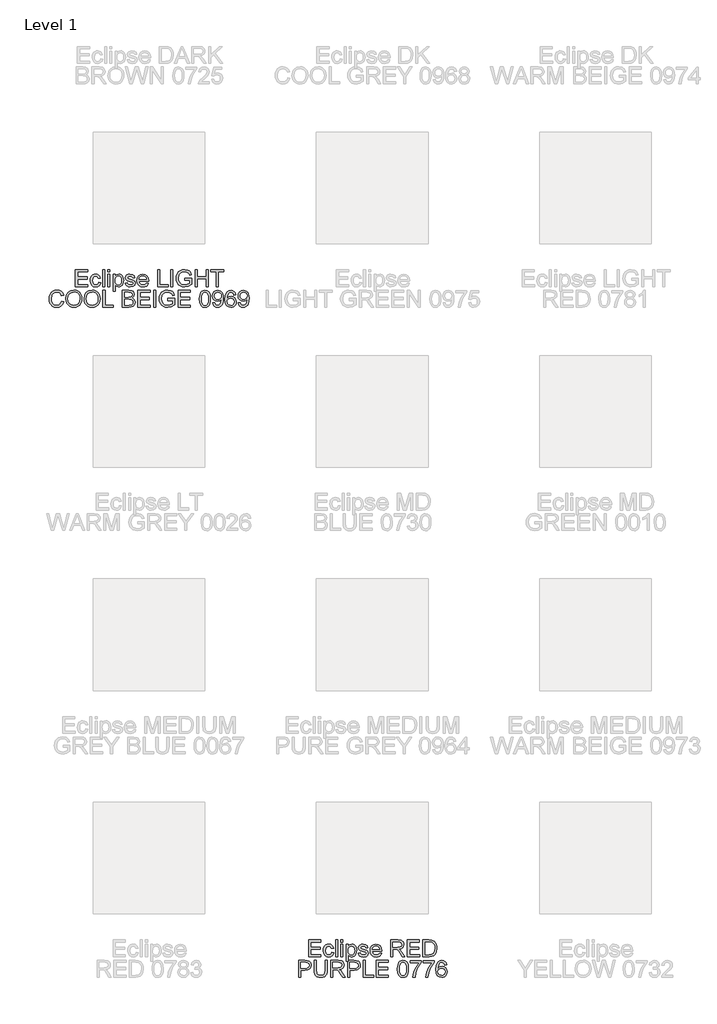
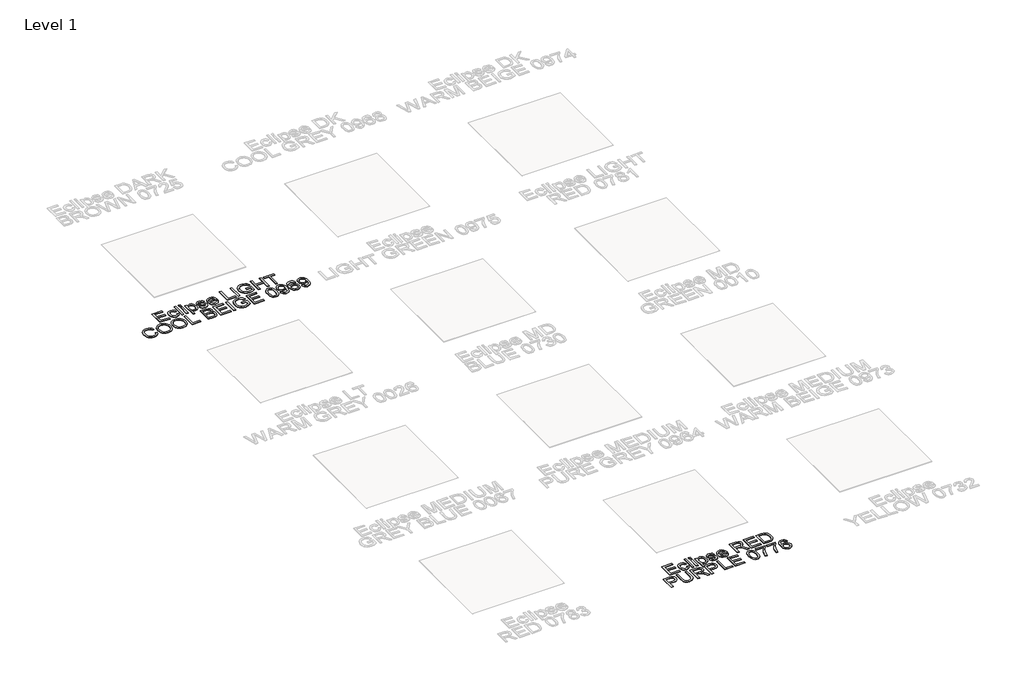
# One storey, part 3 of 13: 2 proxies.
"""IFC4 building model written with IfcOpenShell, lengths in millimetres."""

from ifc_helpers import new_model, si_unit, origin, origin_with_axes, place, context, project, spatial, polyline, outline, extrude, element, save

model = new_model("IFC4")

# Units and contexts
model_context = context("Model", 3, world=origin())
ifc_project = project(units=[si_unit("LENGTHUNIT", "METRE", prefix="MILLI")], contexts=[model_context])

# Site, building, storey
site = spatial("IfcSite", under=ifc_project)
building = spatial("IfcBuilding", under=site)
storey = spatial("IfcBuildingStorey", under=building, Name="Level 1", Elevation=0.0)

# Proxies
placement = place(None, origin())
element("IfcBuildingElementProxy", 1, Name="150mm Arial", ObjectType="150mm Arial", at=placement, inside=storey, context=model_context, shape_type="SweptSolid", body=[
    extrude(outline(polyline([(-2592.0081563, -1362.9455422), (-2592.0081563, -1212.261077), (-2483.7036969, -1212.261077), (-2483.7036969, -1231.0966352), (-2573.1725981, -1231.0966352), (-2573.1725981, -1275.8310858), (-2488.4125864, -1275.8310858), (-2488.4125864, -1294.6666439), (-2573.1725981, -1294.6666439), (-2573.1725981, -1344.1099841), (-2481.3492521, -1344.1099841), (-2481.3492521, -1362.9455422), (-2592.0081563, -1362.9455422)])), origin_with_axes(), (0.0, 0.0, 1.0), 5.0),
    extrude(outline(polyline([(-2384.8170166, -1322.9199812), (-2365.9814584, -1325.2744259), (-2371.2329739, -1342.0268523), (-2381.1014084, -1354.6865914), (-2394.65786, -1362.6466381), (-2410.9734265, -1365.299987), (-2431.0091996, -1361.5981744), (-2446.6763741, -1350.4927367), (-2456.7885304, -1332.4711175), (-2460.1592492, -1308.0207603), (-2458.7199109, -1291.2591369), (-2454.401896, -1276.7323967), (-2447.1362266, -1265.0015595), (-2436.8539248, -1256.6276456), (-2424.5528706, -1251.6060564), (-2411.2309439, -1249.9321933), (-2395.315449, -1252.2314558), (-2382.5913305, -1259.1292432), (-2373.4632585, -1270.2576735), (-2368.3359032, -1285.2488648), (-2387.1714614, -1287.6033096), (-2395.9086588, -1273.4950351), (-2411.0837911, -1268.7677515), (-2423.2560866, -1271.0946051), (-2432.9175875, -1278.0751659), (-2439.2221652, -1290.0865131), (-2441.3236911, -1307.5057256), (-2439.2681504, -1325.1594628), (-2433.1015285, -1337.2121967), (-2423.6147715, -1344.1513708), (-2411.5988258, -1346.4644288), (-2401.8453545, -1345.020492), (-2393.8485196, -1340.6886815), (-2388.0313855, -1333.3586328), (-2384.8170166, -1322.9199812)])), origin_with_axes(), (0.0, 0.0, 1.0), 5.0),
    extrude(outline(polyline([(-2349.5003451, -1362.9455422), (-2349.5003451, -1212.261077), (-2330.6647869, -1212.261077), (-2330.6647869, -1362.9455422), (-2349.5003451, -1362.9455422)])), origin_with_axes(), (0.0, 0.0, 1.0), 5.0),
    extrude(outline(polyline([(-2302.4114497, -1231.0966352), (-2302.4114497, -1212.261077), (-2283.5758915, -1212.261077), (-2283.5758915, -1231.0966352), (-2302.4114497, -1231.0966352)])), origin_with_axes(), (0.0, 0.0, 1.0), 5.0),
    extrude(outline(polyline([(-2302.4114497, -1362.9455422), (-2302.4114497, -1252.2866381), (-2283.5758915, -1252.2866381), (-2283.5758915, -1362.9455422), (-2302.4114497, -1362.9455422)])), origin_with_axes(), (0.0, 0.0, 1.0), 5.0),
    extrude(outline(polyline([(-2255.3225543, -1405.3255481), (-2255.3225543, -1252.2866381), (-2236.4869961, -1252.2866381), (-2236.4869961, -1270.7543142), (-2223.4639735, -1255.1377235), (-2205.8792141, -1249.9321933), (-2193.1413001, -1251.7532092), (-2182.0036727, -1257.2162568), (-2172.9353815, -1265.9902424), (-2166.4054761, -1277.7440721), (-2161.1447635, -1306.7699616), (-2162.6300871, -1322.8785944), (-2167.0860578, -1337.2857731), (-2174.3701213, -1349.260332), (-2184.3397233, -1358.0711058), (-2195.9509988, -1363.4927667), (-2208.1600825, -1365.299987), (-2224.5492254, -1360.4623388), (-2236.4869961, -1348.2302624), (-2236.4869961, -1405.3255481), (-2255.3225543, -1405.3255481)]), holes=[polyline([(-2236.4869961, -1308.4990069), (-2234.4498496, -1325.3847905), (-2228.33841, -1337.1938026), (-2219.3207025, -1344.1467723), (-2208.5647527, -1346.4644288), (-2197.6340589, -1344.0639988), (-2188.3864253, -1336.8627088), (-2182.0818476, -1324.6214354), (-2179.9803217, -1307.1010554), (-2182.0312638, -1290.3072423), (-2188.1840902, -1278.3326833), (-2197.188002, -1271.1589844), (-2207.7922005, -1268.7677515), (-2218.4377858, -1271.3107358), (-2227.786587, -1278.9396886), (-2234.3118938, -1291.4154868), (-2236.4869961, -1308.4990069)])]), origin_with_axes(), (0.0, 0.0, 1.0), 5.0),
    extrude(outline(polyline([(-2147.0180949, -1329.9833155), (-2128.1825368, -1327.6288707), (-2125.2118897, -1335.6854864), (-2119.4637335, -1341.6083865), (-2099.4877411, -1346.4644288), (-2080.284301, -1342.0130567), (-2074.0303071, -1331.565208), (-2075.6030026, -1326.764348), (-2080.3210892, -1323.1039222), (-2099.7084703, -1317.732845), (-2128.0721722, -1308.517401), (-2140.4514013, -1297.7568527), (-2144.6636501, -1282.5633263), (-2141.2791358, -1268.5286282), (-2132.0452977, -1257.804868), (-2120.0707388, -1252.2314558), (-2103.8655369, -1249.9321933), (-2080.9464886, -1253.6294074), (-2066.3783616, -1263.6357976), (-2059.9036385, -1280.5399753), (-2078.7391966, -1282.8944201), (-2085.820925, -1272.5017537), (-2102.3940089, -1268.7677515), (-2120.4202267, -1272.3362068), (-2125.828092, -1280.6503399), (-2123.5840118, -1286.1317816), (-2116.5574657, -1290.2888482), (-2100.3338697, -1294.2987619), (-2072.6875378, -1303.164718), (-2059.8484562, -1313.2078965), (-2055.1947489, -1329.5786453), (-2060.6577965, -1347.604863), (-2076.42154, -1360.683068), (-2099.7452585, -1365.299987), (-2118.7371665, -1363.0743009), (-2132.5971207, -1356.3972427), (-2141.8493529, -1345.3423888), (-2147.0180949, -1329.9833155)])), origin_with_axes(), (0.0, 0.0, 1.0), 5.0),
    extrude(outline(polyline([(-1956.5287978, -1329.9833155), (-1938.0611217, -1332.3377602), (-1944.7151872, -1346.2528967), (-1955.3331813, -1356.6547601), (-1969.6759806, -1363.1386803), (-1987.5044618, -1365.299987), (-2009.6049727, -1361.5705833), (-2026.6103179, -1350.3823721), (-2037.4536397, -1332.4619204), (-2041.0680803, -1308.5357951), (-2037.4168515, -1283.804928), (-2026.4631651, -1265.3096607), (-2009.6877461, -1253.7765602), (-1988.5713196, -1249.9321933), (-1968.1124821, -1253.7673631), (-1951.764726, -1265.2728725), (-1941.0455643, -1283.7313516), (-1937.4725105, -1308.4254305), (-1937.5828751, -1313.5022021), (-2022.2325222, -1313.5022021), (-2018.972168, -1327.6012795), (-2011.3983974, -1337.9663548), (-2000.4677036, -1344.3399103), (-1987.1365798, -1346.4644288), (-1968.6689037, -1342.5280915), (-1956.5287978, -1329.9833155)]), holes=[polyline([(-2022.2325222, -1294.6666439), (-1956.3080686, -1294.6666439), (-1958.8556514, -1284.715436), (-1963.8496495, -1277.5969193), (-1974.8309271, -1270.9750434), (-1988.644896, -1268.7677515), (-2001.3414234, -1270.5289865), (-2011.8398558, -1275.8126917), (-2019.1377149, -1284.0486498), (-2022.2325222, -1294.6666439)])]), origin_with_axes(), (0.0, 0.0, 1.0), 5.0),
    extrude(outline(polyline([(-1857.4213883, -1362.9455422), (-1857.4213883, -1212.261077), (-1838.5858302, -1212.261077), (-1838.5858302, -1344.1099841), (-1763.2435975, -1344.1099841), (-1763.2435975, -1362.9455422), (-1857.4213883, -1362.9455422)])), origin_with_axes(), (0.0, 0.0, 1.0), 5.0),
    extrude(outline(polyline([(-1739.6991499, -1362.9455422), (-1739.6991499, -1212.261077), (-1720.8635917, -1212.261077), (-1720.8635917, -1362.9455422), (-1739.6991499, -1362.9455422)])), origin_with_axes(), (0.0, 0.0, 1.0), 5.0),
    extrude(outline(polyline([(-1612.5591323, -1304.084423), (-1612.5591323, -1285.2488648), (-1551.3435683, -1285.2488648), (-1551.3435683, -1341.5715983), (-1581.5650742, -1359.3402987), (-1613.5156255, -1365.299987), (-1634.6458476, -1362.9317467), (-1653.7435217, -1355.8270256), (-1669.6084327, -1344.2341443), (-1681.0403657, -1328.4014229), (-1687.9519487, -1309.4095149), (-1690.2558097, -1288.3390736), (-1687.9611458, -1267.116881), (-1681.0771539, -1247.3754134), (-1669.8889427, -1230.8161251), (-1654.6816208, -1219.1404703), (-1636.1587623, -1212.2150918), (-1615.0239417, -1209.9066322), (-1585.5565939, -1215.2593153), (-1573.8073627, -1221.660462), (-1564.9000198, -1230.1585361), (-1553.5140721, -1255.0825412), (-1570.8781023, -1259.9753718), (-1579.4681469, -1242.5561593), (-1594.1466385, -1232.5129808), (-1615.3182473, -1228.7421904), (-1639.4329121, -1232.8072864), (-1655.8404491, -1243.4758643), (-1665.5341396, -1257.988809), (-1671.4202516, -1287.5665214), (-1669.6498195, -1305.5789436), (-1664.3385231, -1320.3999895), (-1655.647311, -1331.923893), (-1643.7371314, -1340.044888), (-1629.7990023, -1344.8595436), (-1615.0239417, -1346.4644288), (-1589.2538079, -1341.6267806), (-1570.1791265, -1331.3076906), (-1570.1791265, -1304.084423), (-1612.5591323, -1304.084423)])), origin_with_axes(), (0.0, 0.0, 1.0), 5.0),
    extrude(outline(polyline([(-1520.7357863, -1362.9455422), (-1520.7357863, -1212.261077), (-1501.9002282, -1212.261077), (-1501.9002282, -1273.476641), (-1421.849106, -1273.476641), (-1421.849106, -1212.261077), (-1403.0135479, -1212.261077), (-1403.0135479, -1362.9455422), (-1421.849106, -1362.9455422), (-1421.849106, -1292.3121992), (-1501.9002282, -1292.3121992), (-1501.9002282, -1362.9455422), (-1520.7357863, -1362.9455422)])), origin_with_axes(), (0.0, 0.0, 1.0), 5.0),
    extrude(outline(polyline([(-1332.3802048, -1362.9455422), (-1332.3802048, -1231.0966352), (-1381.8235449, -1231.0966352), (-1381.8235449, -1212.261077), (-1264.1013065, -1212.261077), (-1264.1013065, -1231.0966352), (-1313.5446466, -1231.0966352), (-1313.5446466, -1362.9455422), (-1332.3802048, -1362.9455422)])), origin_with_axes(), (0.0, 0.0, 1.0), 5.0),
    extrude(outline(polyline([(-2715.6165067, -1492.3441505), (-2696.7809485, -1497.2001928), (-2705.4721606, -1519.1489524), (-2719.1113856, -1535.1840088), (-2737.0272388, -1544.9926625), (-2758.5483355, -1548.2622138), (-2780.3959275, -1545.7882073), (-2797.7461621, -1538.3661881), (-2811.0450962, -1526.2536734), (-2820.7387868, -1509.7081807), (-2826.6570884, -1490.2564202), (-2828.6298556, -1469.4251022), (-2826.399571, -1447.45335), (-2819.7087172, -1428.4798361), (-2808.9067821, -1413.1069673), (-2794.3432536, -1401.9371502), (-2777.071194, -1395.1359318), (-2758.1436653, -1392.868859), (-2737.4916898, -1395.8027179), (-2720.4173667, -1404.6042947), (-2707.4541249, -1418.7309633), (-2699.1353933, -1437.6400978), (-2717.9709514, -1442.1282582), (-2724.5008568, -1428.3924642), (-2733.4219952, -1418.9700866), (-2744.8447312, -1413.5208345), (-2758.8794293, -1411.7044172), (-2775.05704, -1413.7185711), (-2788.3467771, -1419.7610329), (-2798.4313423, -1429.197206), (-2804.9934374, -1441.3924942), (-2809.7942974, -1469.388314), (-2808.3733532, -1486.7891324), (-2804.1105206, -1501.835506), (-2796.8448512, -1513.9526192), (-2786.4153966, -1522.5656564), (-2773.9120073, -1527.7114058), (-2760.4245337, -1529.4266556), (-2744.7021769, -1527.0906049), (-2731.6009794, -1520.0824529), (-2721.7095522, -1508.475776), (-2715.6165067, -1492.3441505)])), origin_with_axes(), (0.0, 0.0, 1.0), 5.0),
    extrude(outline(polyline([(-2677.9453904, -1472.5520992), (-2672.9238011, -1439.2311874), (-2666.6468146, -1425.6126558), (-2657.8590334, -1414.0220737), (-2634.8572117, -1398.1571627), (-2606.0244603, -1392.868859), (-2586.2600001, -1395.3520625), (-2568.537285, -1402.8016729), (-2553.8220052, -1414.6934584), (-2543.0798509, -1430.5031871), (-2536.5131573, -1449.467504), (-2534.3242594, -1470.8230538), (-2536.6281204, -1492.4637121), (-2543.5397034, -1511.6947434), (-2554.6773308, -1527.5320633), (-2569.6593251, -1538.9915875), (-2587.2302889, -1545.9445572), (-2606.1348249, -1548.2622138), (-2626.2027877, -1545.7008354), (-2644.0266704, -1538.0167002), (-2658.705162, -1525.9041855), (-2669.3369517, -1510.0576686), (-2675.7932807, -1491.8245172), (-2677.9453904, -1472.5520992)]), holes=[polyline([(-2659.1098322, -1472.7360402), (-2655.3436403, -1496.308079), (-2644.0450645, -1514.2699174), (-2627.0627119, -1525.6374711), (-2606.2451895, -1529.4266556), (-2585.1241644, -1525.6006829), (-2568.1142207, -1514.1227646), (-2556.8984184, -1495.6091032), (-2553.1598176, -1470.675901), (-2554.7601043, -1454.0016496), (-2559.5609643, -1439.5898724), (-2567.4382375, -1427.803853), (-2578.2677638, -1419.0068748), (-2591.3321731, -1413.5300316), (-2605.9140957, -1411.7044172), (-2626.1751966, -1415.2222887), (-2643.401271, -1425.7759035), (-2655.1826919, -1444.5516808), (-2659.1098322, -1472.7360402)])]), origin_with_axes(), (0.0, 0.0, 1.0), 5.0),
    extrude(outline(polyline([(-2515.4887013, -1472.5520992), (-2510.4671121, -1439.2311874), (-2504.1901255, -1425.6126558), (-2495.4023443, -1414.0220737), (-2472.4005226, -1398.1571627), (-2443.5677712, -1392.868859), (-2423.803311, -1395.3520625), (-2406.0805959, -1402.8016729), (-2391.3653161, -1414.6934584), (-2380.6231619, -1430.5031871), (-2374.0564682, -1449.467504), (-2371.8675704, -1470.8230538), (-2374.1714314, -1492.4637121), (-2381.0830143, -1511.6947434), (-2392.2206418, -1527.5320633), (-2407.202636, -1538.9915875), (-2424.7735998, -1545.9445572), (-2443.6781358, -1548.2622138), (-2463.7460987, -1545.7008354), (-2481.5699813, -1538.0167002), (-2496.2484729, -1525.9041855), (-2506.8802626, -1510.0576686), (-2513.3365916, -1491.8245172), (-2515.4887013, -1472.5520992)]), holes=[polyline([(-2496.6531431, -1472.7360402), (-2492.8869512, -1496.308079), (-2481.5883754, -1514.2699174), (-2464.6060228, -1525.6374711), (-2443.7885004, -1529.4266556), (-2422.6674754, -1525.6006829), (-2405.6575316, -1514.1227646), (-2394.4417293, -1495.6091032), (-2390.7031285, -1470.675901), (-2392.3034152, -1454.0016496), (-2397.1042752, -1439.5898724), (-2404.9815485, -1427.803853), (-2415.8110747, -1419.0068748), (-2428.875484, -1413.5300316), (-2443.4574066, -1411.7044172), (-2463.7185075, -1415.2222887), (-2480.9445819, -1425.7759035), (-2492.7260028, -1444.5516808), (-2496.6531431, -1472.7360402)])]), origin_with_axes(), (0.0, 0.0, 1.0), 5.0),
    extrude(outline(polyline([(-2345.9686779, -1545.907769), (-2345.9686779, -1395.2233038), (-2327.1331198, -1395.2233038), (-2327.1331198, -1527.0722108), (-2251.7908871, -1527.0722108), (-2251.7908871, -1545.907769), (-2345.9686779, -1545.907769)])), origin_with_axes(), (0.0, 0.0, 1.0), 5.0),
    extrude(outline(polyline([(-2171.739765, -1545.907769), (-2171.739765, -1395.2233038), (-2114.2398091, -1395.2233038), (-2086.0784424, -1399.6562818), (-2076.6146781, -1405.2802778), (-2069.4501762, -1413.2863097), (-2063.4353056, -1432.5633263), (-2068.493683, -1450.1664798), (-2083.7791799, -1463.5022021), (-2073.1060036, -1469.0756143), (-2065.2195333, -1477.5552943), (-2060.3496954, -1488.380222), (-2058.7264161, -1500.9893774), (-2063.1593941, -1521.2412812), (-2074.1406717, -1535.6622554), (-2090.5298146, -1543.3142009), (-2114.6812675, -1545.907769), (-2171.739765, -1545.907769)]), holes=[polyline([(-2152.9042068, -1456.4388678), (-2118.5072403, -1456.4388678), (-2098.4208834, -1454.820187), (-2086.3359598, -1447.8488232), (-2082.2708638, -1435.5799586), (-2086.0600483, -1423.2927), (-2096.9125672, -1416.0270306), (-2121.1192025, -1414.0588619), (-2152.9042068, -1414.0588619), (-2152.9042068, -1456.4388678)]), polyline([(-2152.9042068, -1527.0722108), (-2114.2765973, -1527.0722108), (-2100.2970815, -1526.3364469), (-2088.4696754, -1522.2345626), (-2080.6337889, -1513.8652472), (-2077.5619742, -1501.1733184), (-2081.1672178, -1486.531615), (-2092.8474711, -1477.7944176), (-2116.1160073, -1475.2744259), (-2152.9042068, -1475.2744259), (-2152.9042068, -1527.0722108)])]), origin_with_axes(), (0.0, 0.0, 1.0), 5.0),
    extrude(outline(polyline([(-2032.8275236, -1545.907769), (-2032.8275236, -1395.2233038), (-1924.5230642, -1395.2233038), (-1924.5230642, -1414.0588619), (-2013.9919655, -1414.0588619), (-2013.9919655, -1458.7933125), (-1929.2319538, -1458.7933125), (-1929.2319538, -1477.6288707), (-2013.9919655, -1477.6288707), (-2013.9919655, -1527.0722108), (-1922.1686195, -1527.0722108), (-1922.1686195, -1545.907769), (-2032.8275236, -1545.907769)])), origin_with_axes(), (0.0, 0.0, 1.0), 5.0),
    extrude(outline(polyline([(-1891.5608375, -1545.907769), (-1891.5608375, -1395.2233038), (-1872.7252793, -1395.2233038), (-1872.7252793, -1545.907769), (-1891.5608375, -1545.907769)])), origin_with_axes(), (0.0, 0.0, 1.0), 5.0),
    extrude(outline(polyline([(-1764.4208199, -1487.0466498), (-1764.4208199, -1468.2110916), (-1703.2052559, -1468.2110916), (-1703.2052559, -1524.5338251), (-1733.4267618, -1542.3025254), (-1765.3773131, -1548.2622138), (-1786.5075352, -1545.8939734), (-1805.6052093, -1538.7892524), (-1821.4701203, -1527.196371), (-1832.9020533, -1511.3636497), (-1839.8136363, -1492.3717416), (-1842.1174973, -1471.3013004), (-1839.8228334, -1450.0791078), (-1832.9388415, -1430.3376402), (-1821.7506304, -1413.7783519), (-1806.5433084, -1402.1026971), (-1788.0204499, -1395.1773185), (-1766.8856293, -1392.868859), (-1737.4182815, -1398.221542), (-1725.6690503, -1404.6226887), (-1716.7617075, -1413.1207628), (-1705.3757597, -1438.044768), (-1722.7397899, -1442.9375985), (-1731.3298345, -1425.5183861), (-1746.0083261, -1415.4752076), (-1767.1799349, -1411.7044172), (-1791.2945997, -1415.7695132), (-1807.7021367, -1426.4380911), (-1817.3958272, -1440.9510358), (-1823.2819392, -1470.5287482), (-1821.5115071, -1488.5411704), (-1816.2002108, -1503.3622163), (-1807.5089986, -1514.8861198), (-1795.598819, -1523.0071148), (-1781.6606899, -1527.8217704), (-1766.8856293, -1529.4266556), (-1741.1154955, -1524.5890074), (-1722.0408141, -1514.2699174), (-1722.0408141, -1487.0466498), (-1764.4208199, -1487.0466498)])), origin_with_axes(), (0.0, 0.0, 1.0), 5.0),
    extrude(outline(polyline([(-1672.5974739, -1545.907769), (-1672.5974739, -1395.2233038), (-1564.2930146, -1395.2233038), (-1564.2930146, -1414.0588619), (-1653.7619158, -1414.0588619), (-1653.7619158, -1458.7933125), (-1569.0019041, -1458.7933125), (-1569.0019041, -1477.6288707), (-1653.7619158, -1477.6288707), (-1653.7619158, -1527.0722108), (-1561.9385698, -1527.0722108), (-1561.9385698, -1545.907769), (-1672.5974739, -1545.907769)])), origin_with_axes(), (0.0, 0.0, 1.0), 5.0),
    extrude(outline(polyline([(-1481.8874476, -1471.779547), (-1480.5032916, -1447.6602837), (-1476.3508236, -1428.4246538), (-1469.4714303, -1413.7783519), (-1459.9064984, -1403.4270723), (-1447.5870501, -1397.2742459), (-1432.4441075, -1395.2233038), (-1410.4447642, -1400.0793461), (-1395.2512378, -1414.077256), (-1386.4220699, -1436.3709049), (-1383.0007673, -1471.779547), (-1384.3711278, -1495.7608545), (-1388.4822091, -1514.9504991), (-1395.3202156, -1529.6105966), (-1404.8713519, -1540.003263), (-1417.2183914, -1546.1974761), (-1432.4441075, -1548.2622138), (-1452.0154296, -1544.6753643), (-1466.8778622, -1533.914816), (-1478.1350513, -1508.4297907), (-1481.8874476, -1471.779547)]), holes=[polyline([(-1463.0518895, -1471.7427588), (-1460.8445975, -1501.371055), (-1454.2227216, -1518.5189545), (-1444.3634841, -1526.6997303), (-1432.4441075, -1529.4266556), (-1420.5247308, -1526.6905333), (-1410.6654934, -1518.4821663), (-1404.0436175, -1501.3250697), (-1401.8363255, -1471.7427588), (-1403.9700411, -1442.7812487), (-1410.3711878, -1425.499992), (-1420.2120311, -1416.9191444), (-1432.6648367, -1414.0588619), (-1444.4554546, -1416.5788536), (-1453.928416, -1424.1388286), (-1460.7710211, -1442.4961402), (-1463.0518895, -1471.7427588)])]), origin_with_axes(), (0.0, 0.0, 1.0), 5.0),
    extrude(outline(polyline([(-1364.1652092, -1508.2366527), (-1345.329651, -1505.8822079), (-1342.1106836, -1516.5737784), (-1336.8683651, -1523.8532434), (-1329.7314544, -1528.0333026), (-1320.8287101, -1529.4266556), (-1305.5800014, -1525.8398062), (-1295.2425174, -1516.2564802), (-1289.080494, -1499.8857314), (-1286.3581672, -1478.0335409), (-1286.4685318, -1474.3547209), (-1301.5332995, -1488.6285423), (-1322.1898735, -1494.1099841), (-1339.3653642, -1490.7622579), (-1353.6621782, -1480.7190795), (-1363.305285, -1465.2036563), (-1366.519654, -1445.4391961), (-1363.1489352, -1425.0217454), (-1353.0367788, -1409.0188786), (-1337.847851, -1398.6721975), (-1319.2468176, -1395.2233038), (-1305.1983239, -1397.1914724), (-1292.409826, -1403.0959785), (-1281.713657, -1412.6425162), (-1273.9421499, -1425.5367802), (-1269.2102677, -1443.3606628), (-1267.6329736, -1467.6960568), (-1269.2056692, -1493.4983803), (-1273.9237558, -1513.4421829), (-1281.7458467, -1528.4287757), (-1292.6305552, -1539.3594695), (-1306.1088318, -1546.0365277), (-1321.7116269, -1548.2622138), (-1337.8156613, -1545.636456), (-1350.66394, -1537.7591828), (-1359.6494577, -1525.1270348), (-1364.1652092, -1508.2366527)]), holes=[polyline([(-1286.4685318, -1444.9977377), (-1288.5010798, -1432.2322325), (-1294.5987239, -1422.4097832), (-1304.0624882, -1416.1465922), (-1316.193397, -1414.0588619), (-1328.7749612, -1416.3075406), (-1338.8549279, -1423.0535767), (-1345.4768038, -1433.3772652), (-1347.6840958, -1446.3589011), (-1345.5963655, -1457.9977677), (-1339.3331745, -1467.2362043), (-1329.5015282, -1473.2648705), (-1316.7084318, -1475.2744259), (-1304.674092, -1473.2648705), (-1294.985, -1467.2362043), (-1288.5976488, -1457.6574769), (-1286.4685318, -1444.9977377)])]), origin_with_axes(), (0.0, 0.0, 1.0), 5.0),
    extrude(outline(polyline([(-1154.6196247, -1435.2488648), (-1173.4551829, -1437.6033096), (-1180.5920936, -1421.8947484), (-1189.1361529, -1416.0178336), (-1199.4644399, -1414.0588619), (-1216.4605881, -1418.6205987), (-1229.3180638, -1435.7455055), (-1233.2222115, -1449.7756051), (-1234.6707469, -1469.3147376), (-1218.0608748, -1454.2867581), (-1197.4778772, -1449.3755335), (-1180.0770588, -1452.7324567), (-1165.4721436, -1462.8032263), (-1155.5669209, -1478.1898907), (-1152.26518, -1497.4944984), (-1153.8194814, -1510.9819721), (-1158.4823857, -1523.4853614), (-1165.8676167, -1534.0895599), (-1175.5888985, -1541.8794612), (-1187.2047725, -1546.6665256), (-1200.2737803, -1548.2622138), (-1221.6431257, -1544.0315708), (-1238.6622665, -1531.339642), (-1249.7952954, -1508.9356285), (-1253.506305, -1475.5687315), (-1249.3860267, -1438.0539651), (-1237.0251916, -1412.4033929), (-1220.1486051, -1399.5183261), (-1198.2872176, -1395.2233038), (-1181.7601189, -1397.8812512), (-1168.5255641, -1405.8550934), (-1159.2549379, -1418.5194311), (-1154.6196247, -1435.2488648)]), holes=[polyline([(-1234.6707469, -1497.2001928), (-1230.3113452, -1513.5157593), (-1218.7230624, -1525.3615596), (-1201.7453083, -1529.4266556), (-1189.3154954, -1527.3205312), (-1179.5436299, -1521.0021579), (-1173.2114611, -1511.0693441), (-1171.1007381, -1498.1198978), (-1173.1838699, -1485.6900849), (-1179.4332653, -1476.212525), (-1189.3706777, -1470.21145), (-1202.5178605, -1468.2110916), (-1214.9292793, -1470.21145), (-1225.3081501, -1476.212525), (-1232.3300977, -1485.4601587), (-1234.6707469, -1497.2001928)])]), origin_with_axes(), (0.0, 0.0, 1.0), 5.0),
    extrude(outline(polyline([(-1133.4296218, -1508.2366527), (-1114.5940637, -1505.8822079), (-1111.3750962, -1516.5737784), (-1106.1327778, -1523.8532434), (-1098.9958671, -1528.0333026), (-1090.0931228, -1529.4266556), (-1074.8444141, -1525.8398062), (-1064.50693, -1516.2564802), (-1058.3449066, -1499.8857314), (-1055.6225798, -1478.0335409), (-1055.7329444, -1474.3547209), (-1070.7977121, -1488.6285423), (-1091.4542862, -1494.1099841), (-1108.6297768, -1490.7622579), (-1122.9265908, -1480.7190795), (-1132.5696976, -1465.2036563), (-1135.7840666, -1445.4391961), (-1132.4133478, -1425.0217454), (-1122.3011915, -1409.0188786), (-1107.1122636, -1398.6721975), (-1088.5112302, -1395.2233038), (-1074.4627365, -1397.1914724), (-1061.6742386, -1403.0959785), (-1050.9780696, -1412.6425162), (-1043.2065625, -1425.5367802), (-1038.4746803, -1443.3606628), (-1036.8973863, -1467.6960568), (-1038.4700818, -1493.4983803), (-1043.1881684, -1513.4421829), (-1051.0102593, -1528.4287757), (-1061.8949678, -1539.3594695), (-1075.3732444, -1546.0365277), (-1090.9760396, -1548.2622138), (-1107.0800739, -1545.636456), (-1119.9283526, -1537.7591828), (-1128.9138703, -1525.1270348), (-1133.4296218, -1508.2366527)]), holes=[polyline([(-1055.7329444, -1444.9977377), (-1057.7654924, -1432.2322325), (-1063.8631365, -1422.4097832), (-1073.3269008, -1416.1465922), (-1085.4578096, -1414.0588619), (-1098.0393739, -1416.3075406), (-1108.1193405, -1423.0535767), (-1114.7412165, -1433.3772652), (-1116.9485084, -1446.3589011), (-1114.8607781, -1457.9977677), (-1108.5975871, -1467.2362043), (-1098.7659408, -1473.2648705), (-1085.9728444, -1475.2744259), (-1073.9385047, -1473.2648705), (-1064.2494126, -1467.2362043), (-1057.8620615, -1457.6574769), (-1055.7329444, -1444.9977377)])]), origin_with_axes(), (0.0, 0.0, 1.0), 5.0),
])
element("IfcBuildingElementProxy", 2, Name="150mm Arial", ObjectType="150mm Arial", at=placement, inside=storey, context=model_context, shape_type="SweptSolid", body=[
    extrude(outline(polyline([(-504.8936998, -7362.9455422), (-504.8936998, -7212.261077), (-396.5892404, -7212.261077), (-396.5892404, -7231.0966352), (-486.0581417, -7231.0966352), (-486.0581417, -7275.8310858), (-401.29813, -7275.8310858), (-401.29813, -7294.6666439), (-486.0581417, -7294.6666439), (-486.0581417, -7344.1099841), (-394.2347957, -7344.1099841), (-394.2347957, -7362.9455422), (-504.8936998, -7362.9455422)])), origin_with_axes(), (0.0, 0.0, 1.0), 5.0),
    extrude(outline(polyline([(-297.7025601, -7322.9199812), (-278.867002, -7325.2744259), (-284.1185175, -7342.0268523), (-293.986952, -7354.6865914), (-307.5434035, -7362.6466381), (-323.85897, -7365.299987), (-343.8947432, -7361.5981744), (-359.5619176, -7350.4927367), (-369.674074, -7332.4711175), (-373.0447928, -7308.0207603), (-371.6054544, -7291.2591369), (-367.2874395, -7276.7323967), (-360.0217701, -7265.0015595), (-349.7394684, -7256.6276456), (-337.4384141, -7251.6060564), (-324.1164874, -7249.9321933), (-308.2009926, -7252.2314558), (-295.4768741, -7259.1292432), (-286.3488021, -7270.2576735), (-281.2214468, -7285.2488648), (-300.0570049, -7287.6033096), (-308.7942023, -7273.4950351), (-323.9693346, -7268.7677515), (-336.1416301, -7271.0946051), (-345.803131, -7278.0751659), (-352.1077087, -7290.0865131), (-354.2092346, -7307.5057256), (-352.153694, -7325.1594628), (-345.987072, -7337.2121967), (-336.5003151, -7344.1513708), (-324.4843694, -7346.4644288), (-314.730898, -7345.020492), (-306.7340631, -7340.6886815), (-300.9169291, -7333.3586328), (-297.7025601, -7322.9199812)])), origin_with_axes(), (0.0, 0.0, 1.0), 5.0),
    extrude(outline(polyline([(-262.3858886, -7362.9455422), (-262.3858886, -7212.261077), (-243.5503305, -7212.261077), (-243.5503305, -7362.9455422), (-262.3858886, -7362.9455422)])), origin_with_axes(), (0.0, 0.0, 1.0), 5.0),
    extrude(outline(polyline([(-215.2969932, -7231.0966352), (-215.2969932, -7212.261077), (-196.4614351, -7212.261077), (-196.4614351, -7231.0966352), (-215.2969932, -7231.0966352)])), origin_with_axes(), (0.0, 0.0, 1.0), 5.0),
    extrude(outline(polyline([(-215.2969932, -7362.9455422), (-215.2969932, -7252.2866381), (-196.4614351, -7252.2866381), (-196.4614351, -7362.9455422), (-215.2969932, -7362.9455422)])), origin_with_axes(), (0.0, 0.0, 1.0), 5.0),
    extrude(outline(polyline([(-168.2080978, -7405.3255481), (-168.2080978, -7252.2866381), (-149.3725397, -7252.2866381), (-149.3725397, -7270.7543142), (-136.3495171, -7255.1377235), (-118.7647577, -7249.9321933), (-106.0268436, -7251.7532092), (-94.8892162, -7257.2162568), (-85.820925, -7265.9902424), (-79.2910196, -7277.7440721), (-74.0303071, -7306.7699616), (-75.5156306, -7322.8785944), (-79.9716013, -7337.2857731), (-87.2556648, -7349.260332), (-97.2252669, -7358.0711058), (-108.8365423, -7363.4927667), (-121.0456261, -7365.299987), (-137.4347689, -7360.4623388), (-149.3725397, -7348.2302624), (-149.3725397, -7405.3255481), (-168.2080978, -7405.3255481)]), holes=[polyline([(-149.3725397, -7308.4990069), (-147.3353931, -7325.3847905), (-141.2239535, -7337.1938026), (-132.2062461, -7344.1467723), (-121.4502963, -7346.4644288), (-110.5196025, -7344.0639988), (-101.2719688, -7336.8627088), (-94.9673911, -7324.6214354), (-92.8658652, -7307.1010554), (-94.9168074, -7290.3072423), (-101.0696337, -7278.3326833), (-110.0735456, -7271.1589844), (-120.6777441, -7268.7677515), (-131.3233293, -7271.3107358), (-140.6721305, -7278.9396886), (-147.1974374, -7291.4154868), (-149.3725397, -7308.4990069)])]), origin_with_axes(), (0.0, 0.0, 1.0), 5.0),
    extrude(outline(polyline([(-59.9036385, -7329.9833155), (-41.0680803, -7327.6288707), (-38.0974332, -7335.6854864), (-32.349277, -7341.6083865), (-12.3732847, -7346.4644288), (6.8301555, -7342.0130567), (13.0841494, -7331.565208), (11.5114539, -7326.764348), (6.7933673, -7323.1039222), (-12.5940139, -7317.732845), (-40.9577157, -7308.517401), (-53.3369448, -7297.7568527), (-57.5491937, -7282.5633263), (-54.1646793, -7268.5286282), (-44.9308413, -7257.804868), (-32.9562823, -7252.2314558), (-16.7510804, -7249.9321933), (6.1679679, -7253.6294074), (20.7360949, -7263.6357976), (27.210818, -7280.5399753), (8.3752598, -7282.8944201), (1.2935314, -7272.5017537), (-15.2795524, -7268.7677515), (-33.3057702, -7272.3362068), (-38.7136355, -7280.6503399), (-36.4695554, -7286.1317816), (-29.4430093, -7290.2888482), (-13.2194133, -7294.2987619), (14.4269187, -7303.164718), (27.2660003, -7313.2078965), (31.9197075, -7329.5786453), (26.4566599, -7347.604863), (10.6929164, -7360.683068), (-12.6308021, -7365.299987), (-31.6227101, -7363.0743009), (-45.4826642, -7356.3972427), (-54.7348964, -7345.3423888), (-59.9036385, -7329.9833155)])), origin_with_axes(), (0.0, 0.0, 1.0), 5.0),
    extrude(outline(polyline([(130.5856586, -7329.9833155), (149.0533348, -7332.3377602), (142.3992692, -7346.2528967), (131.7812751, -7356.6547601), (117.4384758, -7363.1386803), (99.6099946, -7365.299987), (77.5094838, -7361.5705833), (60.5041386, -7350.3823721), (49.6608168, -7332.4619204), (46.0463762, -7308.5357951), (49.697605, -7283.804928), (60.6512914, -7265.3096607), (77.4267103, -7253.7765602), (98.5431369, -7249.9321933), (119.0019743, -7253.7673631), (135.3497305, -7265.2728725), (146.0688921, -7283.7313516), (149.641946, -7308.4254305), (149.5315814, -7313.5022021), (64.8819343, -7313.5022021), (68.1422885, -7327.6012795), (75.7160591, -7337.9663548), (86.6467528, -7344.3399103), (99.9778766, -7346.4644288), (118.4455528, -7342.5280915), (130.5856586, -7329.9833155)]), holes=[polyline([(64.8819343, -7294.6666439), (130.8063878, -7294.6666439), (128.258805, -7284.715436), (123.2648069, -7277.5969193), (112.2835294, -7270.9750434), (98.4695605, -7268.7677515), (85.7730331, -7270.5289865), (75.2746007, -7275.8126917), (67.9767416, -7284.0486498), (64.8819343, -7294.6666439)])]), origin_with_axes(), (0.0, 0.0, 1.0), 5.0),
    extrude(outline(polyline([(229.6930681, -7362.9455422), (229.6930681, -7212.261077), (294.6242403, -7212.261077), (324.7721698, -7216.3261731), (334.0519931, -7221.9547676), (341.2532832, -7230.7103591), (345.8748007, -7241.5674764), (347.4153066, -7253.5006487), (344.8631253, -7268.3446872), (337.2065812, -7280.6503399), (324.2157483, -7289.6726458), (305.6607001, -7294.6666439), (316.3660662, -7302.7232596), (331.633169, -7322.1106408), (356.7595093, -7362.9455422), (334.8705306, -7362.9455422), (315.2624202, -7331.7123608), (301.0989634, -7311.0373927), (291.1477554, -7301.2701257), (282.1898289, -7297.6832763), (271.2637336, -7297.0210887), (248.5286263, -7297.0210887), (248.5286263, -7362.9455422), (229.6930681, -7362.9455422)]), holes=[polyline([(248.5286263, -7278.1855305), (290.6879029, -7278.1855305), (312.1906056, -7275.5183861), (324.4042878, -7266.9835238), (328.5797484, -7254.1996245), (326.5885871, -7245.0117716), (320.6151033, -7237.6081465), (310.3374, -7232.724513), (295.4335807, -7231.0966352), (248.5286263, -7231.0966352), (248.5286263, -7278.1855305)])]), origin_with_axes(), (0.0, 0.0, 1.0), 5.0),
    extrude(outline(polyline([(380.3775334, -7362.9455422), (380.3775334, -7212.261077), (488.6819927, -7212.261077), (488.6819927, -7231.0966352), (399.2130915, -7231.0966352), (399.2130915, -7275.8310858), (483.9731032, -7275.8310858), (483.9731032, -7294.6666439), (399.2130915, -7294.6666439), (399.2130915, -7344.1099841), (491.0364375, -7344.1099841), (491.0364375, -7362.9455422), (380.3775334, -7362.9455422)])), origin_with_axes(), (0.0, 0.0, 1.0), 5.0),
    extrude(outline(polyline([(519.2897747, -7362.9455422), (519.2897747, -7212.261077), (571.2715007, -7212.261077), (598.1636745, -7214.4315808), (620.3101706, -7225.2105232), (630.7304281, -7236.6884415), (638.1524474, -7250.9622629), (642.5946225, -7267.756076), (644.0753475, -7286.7939692), (640.0654338, -7317.1994161), (629.7647379, -7339.1435771), (616.0059513, -7352.8103933), (597.9981276, -7360.3703683), (573.7730982, -7362.9455422), (519.2897747, -7362.9455422)]), holes=[polyline([(538.1253329, -7344.1099841), (571.4554417, -7344.1099841), (595.6988651, -7341.3876573), (609.678381, -7333.6989236), (621.1379051, -7314.9921242), (625.2397894, -7286.4996636), (623.230234, -7265.9718483), (617.2015678, -7250.8151101), (608.294225, -7240.4040496), (597.6486397, -7234.1132675), (570.9404069, -7231.0966352), (538.1253329, -7231.0966352), (538.1253329, -7344.1099841)])]), origin_with_axes(), (0.0, 0.0, 1.0), 5.0),
    extrude(outline(polyline([(-594.3626011, -7545.907769), (-594.3626011, -7395.2233038), (-538.5181142, -7395.2233038), (-516.0037361, -7396.6580436), (-497.7016068, -7403.7029838), (-485.8374125, -7418.2711108), (-481.3492521, -7438.8173202), (-484.3796801, -7456.5768235), (-493.4709639, -7471.3748768), (-510.4717106, -7481.3628729), (-537.2305272, -7484.692205), (-575.5270429, -7484.692205), (-575.5270429, -7545.907769), (-594.3626011, -7545.907769)]), holes=[polyline([(-575.5270429, -7465.8566468), (-536.1268812, -7465.8566468), (-519.4250386, -7464.1276015), (-508.3885788, -7458.9404653), (-502.2357524, -7450.6171352), (-500.1848103, -7439.4795078), (-505.0224585, -7423.8813112), (-517.7327815, -7415.3464489), (-536.5683396, -7414.0588619), (-575.5270429, -7414.0588619), (-575.5270429, -7465.8566468)])]), origin_with_axes(), (0.0, 0.0, 1.0), 5.0),
    extrude(outline(polyline([(-356.5636794, -7395.2233038), (-337.7281212, -7395.2233038), (-337.7281212, -7482.1538192), (-339.0065112, -7502.5114891), (-342.8416809, -7518.1878607), (-350.0061828, -7530.2819813), (-361.2725689, -7539.8928984), (-376.6684304, -7546.1698849), (-396.2213585, -7548.2622138), (-415.3466237, -7546.4411979), (-430.6367191, -7540.9781503), (-442.0962432, -7532.0616104), (-449.7297946, -7519.8801178), (-454.0202184, -7503.5415587), (-455.4503597, -7482.1538192), (-455.4503597, -7395.2233038), (-436.6148015, -7395.2233038), (-436.6148015, -7481.4916316), (-432.8991934, -7510.2048214), (-427.850013, -7518.3672031), (-420.1336881, -7524.4234605), (-397.987192, -7529.4266556), (-378.8297371, -7526.9526492), (-366.091823, -7519.5306299), (-358.9457153, -7505.0728675), (-356.5636794, -7481.4916316), (-356.5636794, -7395.2233038)])), origin_with_axes(), (0.0, 0.0, 1.0), 5.0),
    extrude(outline(polyline([(-304.7658944, -7545.907769), (-304.7658944, -7395.2233038), (-239.8347223, -7395.2233038), (-209.6867928, -7399.2883998), (-200.4069695, -7404.9169943), (-193.2056794, -7413.6725858), (-188.5841618, -7424.5297032), (-187.043656, -7436.4628754), (-189.5958373, -7451.3069139), (-197.2523814, -7463.6125667), (-210.2432143, -7472.6348726), (-228.7982624, -7477.6288707), (-218.0928964, -7485.6854864), (-202.8257936, -7505.0728675), (-177.6994533, -7545.907769), (-199.588432, -7545.907769), (-219.1965424, -7514.6745876), (-233.3599992, -7493.9996195), (-243.3112072, -7484.2323525), (-252.2691337, -7480.6455031), (-263.195229, -7479.9833155), (-285.9303363, -7479.9833155), (-285.9303363, -7545.907769), (-304.7658944, -7545.907769)]), holes=[polyline([(-285.9303363, -7461.1477573), (-243.7710596, -7461.1477573), (-222.268357, -7458.4806128), (-210.0546748, -7449.9457506), (-205.8792141, -7437.1618512), (-207.8703754, -7427.9739984), (-213.8438593, -7420.5703732), (-224.1215626, -7415.6867398), (-239.0253819, -7414.0588619), (-285.9303363, -7414.0588619), (-285.9303363, -7461.1477573)])]), origin_with_axes(), (0.0, 0.0, 1.0), 5.0),
    extrude(outline(polyline([(-154.0814292, -7545.907769), (-154.0814292, -7395.2233038), (-98.2369424, -7395.2233038), (-75.7225643, -7396.6580436), (-57.420435, -7403.7029838), (-45.5562406, -7418.2711108), (-41.0680803, -7438.8173202), (-44.0985082, -7456.5768235), (-53.189792, -7471.3748768), (-70.1905387, -7481.3628729), (-96.9493554, -7484.692205), (-135.2458711, -7484.692205), (-135.2458711, -7545.907769), (-154.0814292, -7545.907769)]), holes=[polyline([(-135.2458711, -7465.8566468), (-95.8457094, -7465.8566468), (-79.1438668, -7464.1276015), (-68.107407, -7458.9404653), (-61.9545806, -7450.6171352), (-59.9036385, -7439.4795078), (-64.7412867, -7423.8813112), (-77.4516096, -7415.3464489), (-96.2871678, -7414.0588619), (-135.2458711, -7414.0588619), (-135.2458711, -7465.8566468)])]), origin_with_axes(), (0.0, 0.0, 1.0), 5.0),
    extrude(outline(polyline([(-15.1691878, -7545.907769), (-15.1691878, -7395.2233038), (3.6663703, -7395.2233038), (3.6663703, -7527.0722108), (79.0086029, -7527.0722108), (79.0086029, -7545.907769), (-15.1691878, -7545.907769)])), origin_with_axes(), (0.0, 0.0, 1.0), 5.0),
    extrude(outline(polyline([(100.1986058, -7545.907769), (100.1986058, -7395.2233038), (208.5030652, -7395.2233038), (208.5030652, -7414.0588619), (119.034164, -7414.0588619), (119.034164, -7458.7933125), (203.7941757, -7458.7933125), (203.7941757, -7477.6288707), (119.034164, -7477.6288707), (119.034164, -7527.0722108), (210.85751, -7527.0722108), (210.85751, -7545.907769), (100.1986058, -7545.907769)])), origin_with_axes(), (0.0, 0.0, 1.0), 5.0),
    extrude(outline(polyline([(290.9086321, -7471.779547), (292.2927881, -7447.6602837), (296.4452562, -7428.4246538), (303.3246495, -7413.7783519), (312.8895814, -7403.4270723), (325.2090297, -7397.2742459), (340.3519723, -7395.2233038), (362.3513156, -7400.0793461), (377.544842, -7414.077256), (386.3740099, -7436.3709049), (389.7953124, -7471.779547), (388.424952, -7495.7608545), (384.3138707, -7514.9504991), (377.4758641, -7529.6105966), (367.9247278, -7540.003263), (355.5776884, -7546.1974761), (340.3519723, -7548.2622138), (320.7806501, -7544.6753643), (305.9182175, -7533.914816), (294.6610285, -7508.4297907), (290.9086321, -7471.779547)]), holes=[polyline([(309.7441903, -7471.7427588), (311.9514823, -7501.371055), (318.5733582, -7518.5189545), (328.4325956, -7526.6997303), (340.3519723, -7529.4266556), (352.2713489, -7526.6905333), (362.1305864, -7518.4821663), (368.7524623, -7501.3250697), (370.9597543, -7471.7427588), (368.8260387, -7442.7812487), (362.424892, -7425.499992), (352.5840486, -7416.9191444), (340.1312431, -7414.0588619), (328.3406252, -7416.5788536), (318.8676638, -7424.1388286), (312.0250587, -7442.4961402), (309.7441903, -7471.7427588)])]), origin_with_axes(), (0.0, 0.0, 1.0), 5.0),
    extrude(outline(polyline([(406.2764258, -7416.4133067), (406.2764258, -7397.5777485), (505.1631061, -7397.5777485), (505.1631061, -7412.8080631), (477.112104, -7453.3302649), (464.8018527, -7478.7922975), (455.6461896, -7504.9625029), (448.6564317, -7545.907769), (429.8208735, -7545.907769), (437.3072721, -7503.4173986), (446.0214769, -7478.9578444), (457.8534816, -7455.3904041), (486.327548, -7416.4133067), (406.2764258, -7416.4133067)])), origin_with_axes(), (0.0, 0.0, 1.0), 5.0),
    extrude(outline(polyline([(521.6442195, -7416.4133067), (521.6442195, -7397.5777485), (620.5308998, -7397.5777485), (620.5308998, -7412.8080631), (592.4798977, -7453.3302649), (580.1696464, -7478.7922975), (571.0139833, -7504.9625029), (564.0242254, -7545.907769), (545.1886672, -7545.907769), (552.6750658, -7503.4173986), (561.3892706, -7478.9578444), (573.2212752, -7455.3904041), (601.6953417, -7416.4133067), (521.6442195, -7416.4133067)])), origin_with_axes(), (0.0, 0.0, 1.0), 5.0),
    extrude(outline(polyline([(733.5442487, -7435.2488648), (714.7086906, -7437.6033096), (707.5717799, -7421.8947484), (699.0277205, -7416.0178336), (688.6994335, -7414.0588619), (671.7032853, -7418.6205987), (658.8458096, -7435.7455055), (654.9416619, -7449.7756051), (653.4931266, -7469.3147376), (670.1029987, -7454.2867581), (690.6859963, -7449.3755335), (708.0868147, -7452.7324567), (722.6917299, -7462.8032263), (732.5969526, -7478.1898907), (735.8986935, -7497.4944984), (734.3443921, -7510.9819721), (729.6814878, -7523.4853614), (722.2962567, -7534.0895599), (712.574975, -7541.8794612), (700.959101, -7546.6665256), (687.8900931, -7548.2622138), (666.5207477, -7544.0315708), (649.5016069, -7531.339642), (638.3685781, -7508.9356285), (634.6575684, -7475.5687315), (638.7778468, -7438.0539651), (651.1386818, -7412.4033929), (668.0152683, -7399.5183261), (689.8766559, -7395.2233038), (706.4037545, -7397.8812512), (719.6383093, -7405.8550934), (728.9089356, -7418.5194311), (733.5442487, -7435.2488648)]), holes=[polyline([(653.4931266, -7497.2001928), (657.8525282, -7513.5157593), (669.4408111, -7525.3615596), (686.4185652, -7529.4266556), (698.8483781, -7527.3205312), (708.6202436, -7521.0021579), (714.9524124, -7511.0693441), (717.0631354, -7498.1198978), (714.9800036, -7485.6900849), (708.7306082, -7476.212525), (698.7931958, -7470.21145), (685.646013, -7468.2110916), (673.2345942, -7470.21145), (662.8557234, -7476.212525), (655.8337758, -7485.4601587), (653.4931266, -7497.2001928)])]), origin_with_axes(), (0.0, 0.0, 1.0), 5.0),
])

save(model, "model.ifc")
